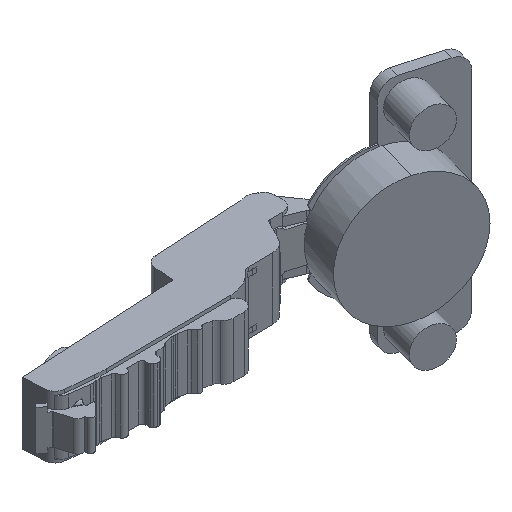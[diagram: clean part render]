
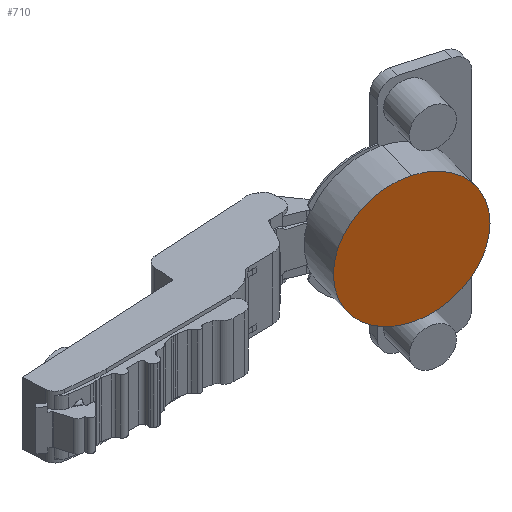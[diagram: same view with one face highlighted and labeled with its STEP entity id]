
A CAD part, isometric view. The second image highlights one B-rep face of the part: STEP entity #710.
In plain terms, the highlighted planar face has unit normal (-0.267, -0.964, 0).
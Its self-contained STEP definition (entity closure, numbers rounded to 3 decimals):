
#228 = FACE_OUTER_BOUND ( 'NONE', #4531, .T. ) ;
#710 = ADVANCED_FACE ( 'NONE', ( #228 ), #2632, .F. ) ;
#977 = CARTESIAN_POINT ( 'NONE',  ( -5.374, -17.232, 0. ) ) ;
#1003 = CARTESIAN_POINT ( 'NONE',  ( -5.374, -17.232, 17.4 ) ) ;
#1090 = DIRECTION ( 'NONE',  ( 0.964, -0.267, 0. ) ) ;
#1359 = AXIS2_PLACEMENT_3D ( 'NONE', #4452, #5130, #6844 ) ;
#1377 = DIRECTION ( 'NONE',  ( 0., 0., 1. ) ) ;
#1495 = EDGE_CURVE ( 'NONE', #2405, #4797, #4611, .T. ) ;
#1887 = CIRCLE ( 'NONE', #5699, 17.4 ) ;
#2405 = VERTEX_POINT ( 'NONE', #1003 ) ;
#2632 = PLANE ( 'NONE',  #2779 ) ;
#2779 = AXIS2_PLACEMENT_3D ( 'NONE', #5470, #4815, #1377 ) ;
#3037 = ORIENTED_EDGE ( 'NONE', *, *, #1495, .T. ) ;
#4452 = CARTESIAN_POINT ( 'NONE',  ( -5.374, -17.232, 0. ) ) ;
#4531 = EDGE_LOOP ( 'NONE', ( #3037, #6842 ) ) ;
#4611 = CIRCLE ( 'NONE', #1359, 17.4 ) ;
#4797 = VERTEX_POINT ( 'NONE', #6867 ) ;
#4815 = DIRECTION ( 'NONE',  ( 0.267, 0.964, 0. ) ) ;
#5130 = DIRECTION ( 'NONE',  ( -0.267, -0.964, 0. ) ) ;
#5470 = CARTESIAN_POINT ( 'NONE',  ( 5.194, -20.163, -7.7 ) ) ;
#5699 = AXIS2_PLACEMENT_3D ( 'NONE', #977, #6256, #1090 ) ;
#6254 = EDGE_CURVE ( 'NONE', #4797, #2405, #1887, .T. ) ;
#6256 = DIRECTION ( 'NONE',  ( -0.267, -0.964, 0. ) ) ;
#6842 = ORIENTED_EDGE ( 'NONE', *, *, #6254, .T. ) ;
#6844 = DIRECTION ( 'NONE',  ( 0.964, -0.267, 0. ) ) ;
#6867 = CARTESIAN_POINT ( 'NONE',  ( -5.374, -17.232, -17.4 ) ) ;
